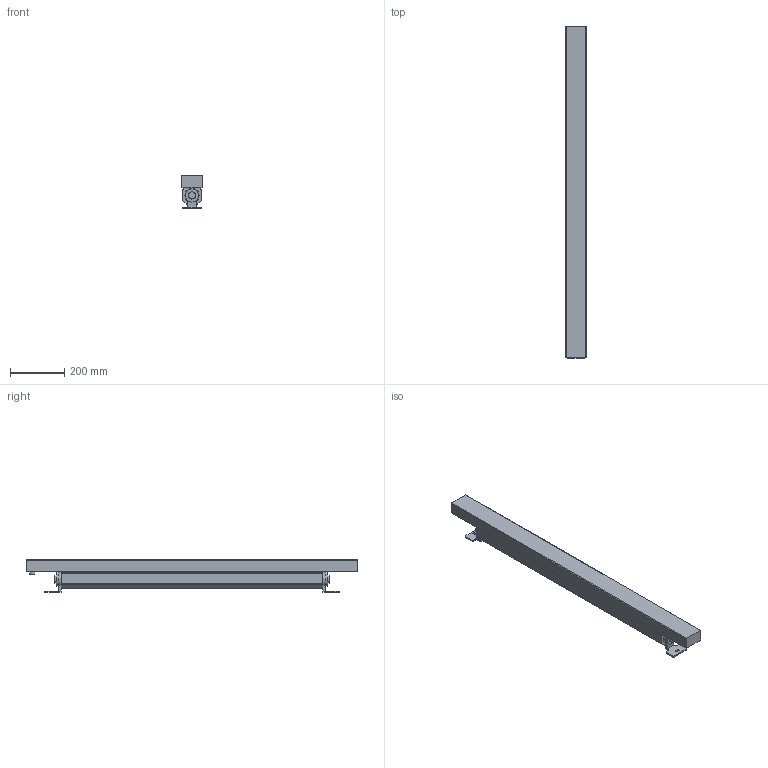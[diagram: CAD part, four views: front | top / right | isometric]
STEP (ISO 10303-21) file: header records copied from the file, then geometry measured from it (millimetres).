
FILE_DESCRIPTION(/* description */ ('Unknown'),/* implementation_level */ '2;1');
FILE_NAME(/* name */ 'Eminere 4 MC',/* time_stamp */ '2024-06-13T09:37:56+02:00',/* author */ ('Unknown'),/* organization */ ('Unknown'),/* preprocessor_version */ 'ST-DEVELOPER v19.4',/* originating_system */ 'Solid Edge',/* authorisation */ 'Unknown');
FILE_SCHEMA (('AUTOMOTIVE_DESIGN {1 0 10303 214 3 1 1}'));
Length unit declared in the file: millimetre
Products named in the file (1): Eminere 4 MC
Bounding box: 76 x 1219.2 x 120.6 mm (x, y, z)
Volume: 8111777.4 mm3; surface area: 452495.9 mm2
Topology: 1 solids, 1 shells, 96 faces, 264 edges, 175 vertices
Faces by surface type: plane 55, cylinder 41
Full cylindrical faces by diameter (mm): 20 x1, 26 x2, 48 x2
Entity records: 3078 total; most frequent: CARTESIAN_POINT 541, DIRECTION 534, ORIENTED_EDGE 516, EDGE_CURVE 258, AXIS2_PLACEMENT_3D 183, VERTEX_POINT 174, LINE 168, VECTOR 168
